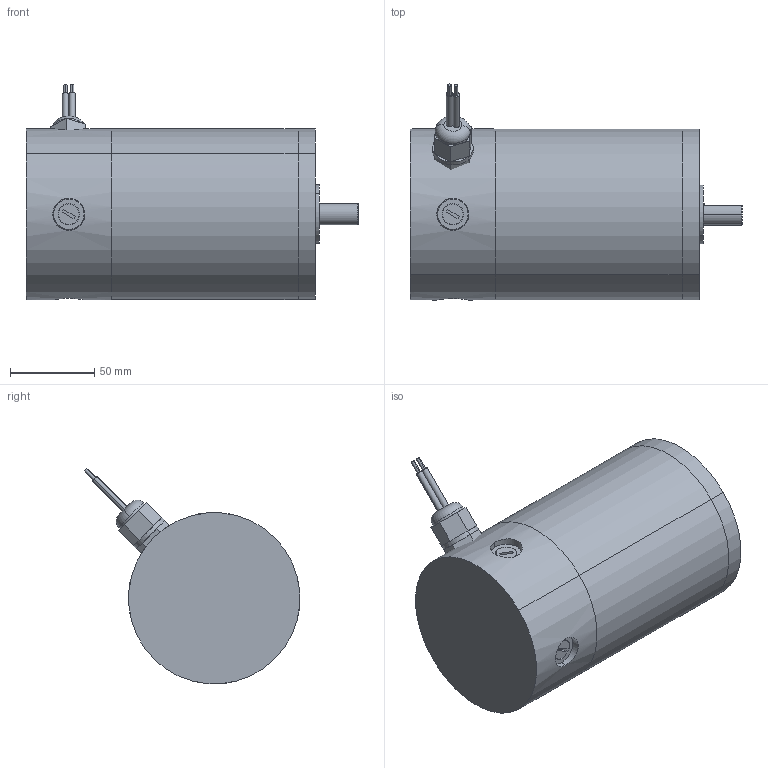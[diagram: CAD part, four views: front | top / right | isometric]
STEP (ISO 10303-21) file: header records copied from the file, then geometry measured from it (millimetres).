
FILE_DESCRIPTION (( 'STEP AP203' ), '1' );
FILE_NAME ('d40675b.step', '2018-12-07T18:50:14', ( '' ), ( '' ), 'SwSTEP 2.0', 'SolidWorks 2017', '' );
FILE_SCHEMA (( 'CONFIG_CONTROL_DESIGN' ));
Length unit declared in the file: inch
Products named in the file (1): d40675b
Bounding box: 196.85 x 128 x 128 mm (x, y, z)
Volume: 1399576.2 mm3; surface area: 134137.4 mm2
Topology: 12 solids, 12 shells, 304 faces, 650 edges, 386 vertices
Faces by surface type: plane 144, cylinder 105, cone 35, torus 12, sphere 8
Entity records: 8606 total; most frequent: CARTESIAN_POINT 1849, DIRECTION 1527, ORIENTED_EDGE 1268, EDGE_CURVE 634, AXIS2_PLACEMENT_3D 616, VERTEX_POINT 386, EDGE_LOOP 350, CIRCLE 311
